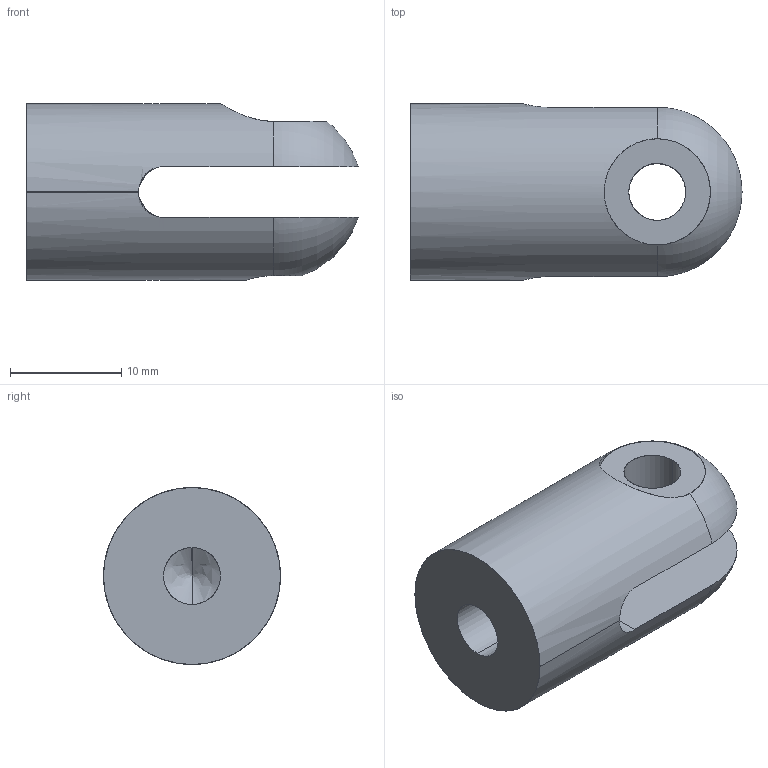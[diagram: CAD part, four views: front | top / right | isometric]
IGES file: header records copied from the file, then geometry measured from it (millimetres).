
Start section: SolidWorks IGES file using analytic representation for surfaces
Global section: file name: O:\_New Design Drive Folder List\_Design Vault\AAI\Modular Round Tube Connectors\Solidworks Models\Modular Connectors\0.500 In. Modular Connectors\Basic Models\0.500 In. End Thread Female Clevis.IGS; native system: SolidWorks 2015; preprocessor: SolidWorks 2015; author: mgriswold; date: 150908.155325; units: inch
Bounding box: 29.79 x 15.88 x 15.88 mm (x, y, z)
Surface area: 2260.7 mm2 (no closed solid volume)
Topology: 0 solids, 0 shells, 21 faces, 512 edges, 510 vertices
Faces by surface type: revolution 16, bspline 5
